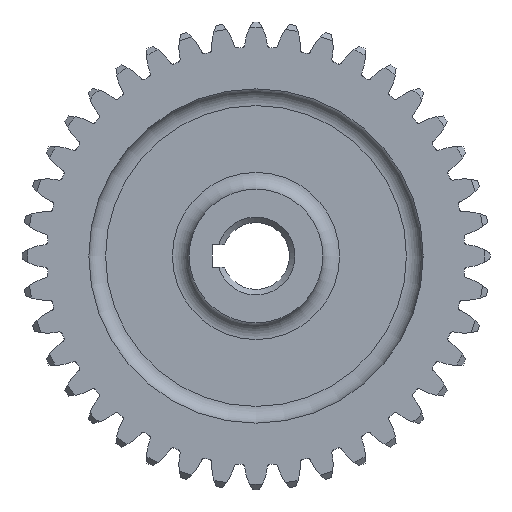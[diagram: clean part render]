
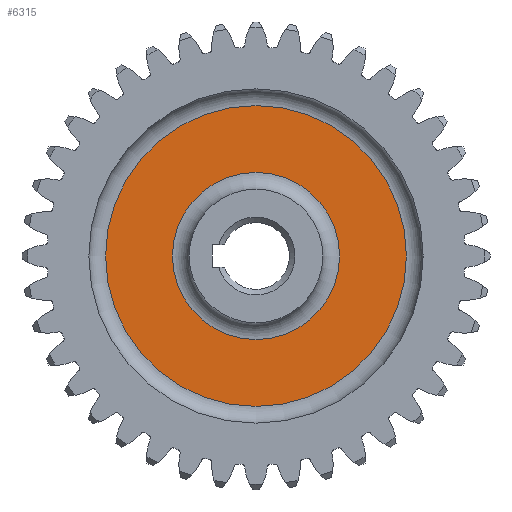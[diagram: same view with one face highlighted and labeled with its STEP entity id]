
A CAD part, left-side view. The second image highlights one B-rep face of the part: STEP entity #6315.
In plain terms, the highlighted planar face has unit normal (-1, 0, 0).
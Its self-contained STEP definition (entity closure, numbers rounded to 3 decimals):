
#28=FACE_BOUND('',#1475,.T.);
#37=PLANE('',#7260);
#1129=FACE_OUTER_BOUND('',#1474,.T.);
#1474=EDGE_LOOP('',(#5888));
#1475=EDGE_LOOP('',(#5889));
#2058=CIRCLE('',#7259,15.);
#2059=CIRCLE('',#7261,27.);
#2887=VERTEX_POINT('',#11859);
#2888=VERTEX_POINT('',#11863);
#3888=EDGE_CURVE('',#2887,#2887,#2058,.T.);
#3889=EDGE_CURVE('',#2888,#2888,#2059,.T.);
#5888=ORIENTED_EDGE('',*,*,#3889,.F.);
#5889=ORIENTED_EDGE('',*,*,#3888,.T.);
#6315=ADVANCED_FACE('',(#1129,#28),#37,.T.);
#7259=AXIS2_PLACEMENT_3D('',#11861,#9358,#9359);
#7260=AXIS2_PLACEMENT_3D('',#11862,#9360,#9361);
#7261=AXIS2_PLACEMENT_3D('',#11864,#9362,#9363);
#9358=DIRECTION('center_axis',(1.,0.,0.));
#9359=DIRECTION('ref_axis',(0.,0.,-1.));
#9360=DIRECTION('center_axis',(-1.,0.,0.));
#9361=DIRECTION('ref_axis',(0.,0.,1.));
#9362=DIRECTION('center_axis',(1.,0.,0.));
#9363=DIRECTION('ref_axis',(0.,0.,-1.));
#11859=CARTESIAN_POINT('',(-4.,0.,15.));
#11861=CARTESIAN_POINT('Origin',(-4.,0.,0.));
#11862=CARTESIAN_POINT('Origin',(-4.,27.,0.));
#11863=CARTESIAN_POINT('',(-4.,0.,27.));
#11864=CARTESIAN_POINT('Origin',(-4.,0.,0.));
